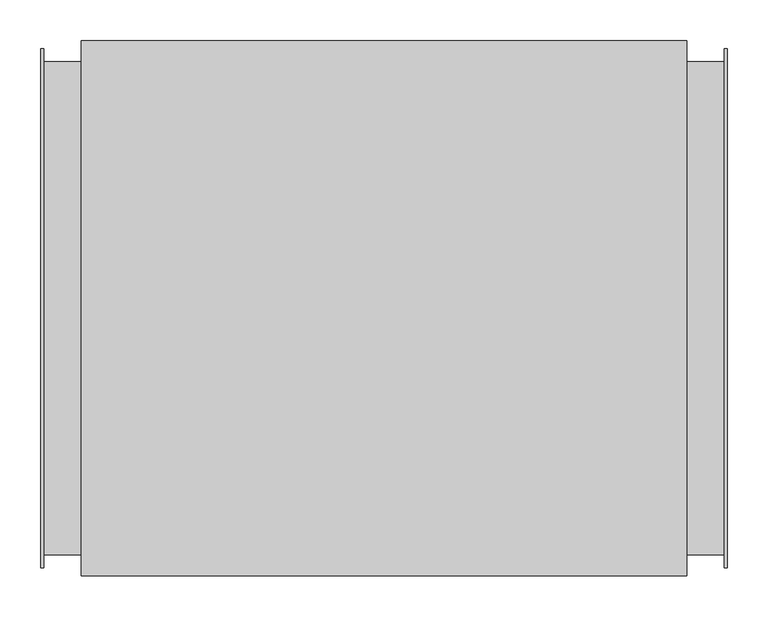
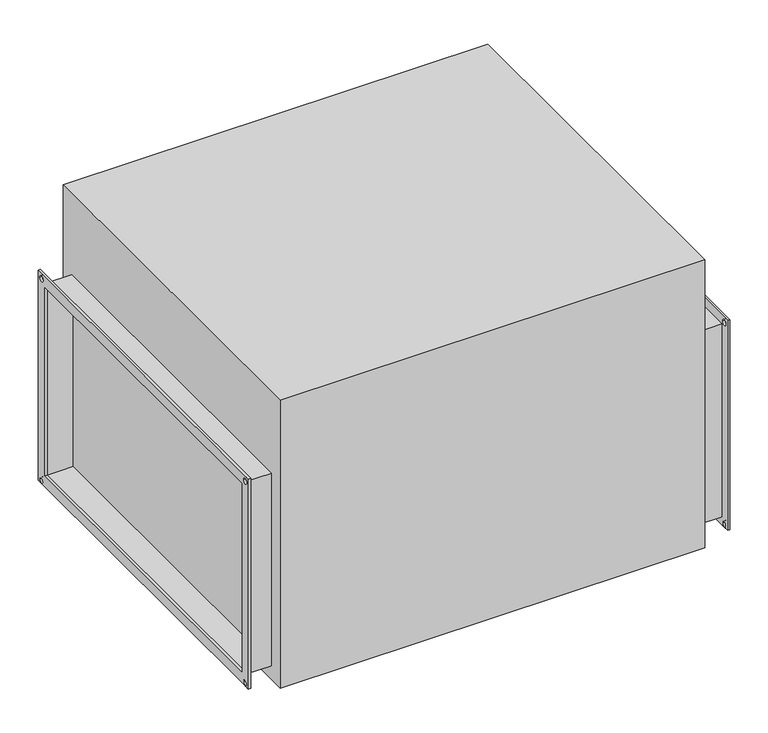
"""IFC4 building model written with IfcOpenShell, lengths in millimetres: proxy geometry."""

from ifc_helpers import new_model, si_unit, frame, origin, place, context, project, spatial, polyline, circle_curve, outline, extrude, source, transform, mapped, element, save
from ifc_brep_helpers import plane_surface, revolved_surface, advanced_brep


def mechanical_equipment_291a1020(model_context):
    return source(origin(), model_context, "Body", "SolidModel", [
        advanced_brep(
        [(419.0, 320.0, 195.0), (419.0, 320.0, -195.0), (419.0, 310.0, -195.0), (419.0, 315.0, -190.0), (419.0, 305.0, -190.0), (419.0, -310.0, -195.0), (419.0, -305.0, -190.0), (419.0, -315.0, -190.0), (419.0, -320.0, -195.0), (419.0, -320.0, 195.0), (419.0, 300.0, 175.0), (419.0, -300.0, 175.0), (419.0, -300.0, -175.0), (419.0, 300.0, -175.0), (419.0, 305.0, 185.0), (419.0, 315.0, 185.0), (419.0, -315.0, 185.0), (419.0, -305.0, 185.0), (423.0, 320.0, 195.0), (423.0, -320.0, 195.0), (423.0, -320.0, -195.0), (423.0, -310.0, -195.0), (423.0, -315.0, -190.0), (423.0, -305.0, -190.0), (423.0, 310.0, -195.0), (423.0, 305.0, -190.0), (423.0, 315.0, -190.0), (423.0, 320.0, -195.0), (423.0, 300.0, 175.0), (423.0, 300.0, -175.0), (423.0, -300.0, -175.0), (423.0, -300.0, 175.0), (423.0, 315.0, 185.0), (423.0, 305.0, 185.0), (423.0, -305.0, 185.0), (423.0, -315.0, 185.0)],
        [
            (0, 1),
            (1, 2),
            (2, 3, circle_curve(frame((419.0, 310.0, -190.0), z_axis=(1.0, 0.0, 0.0), x_axis=(0.0, 1.0, 0.0)), 5.0)),
            (3, 4, circle_curve(frame((419.0, 310.0, -190.0), z_axis=(1.0, 0.0, 0.0), x_axis=(0.0, 1.0, 0.0)), 5.0)),
            (4, 2, circle_curve(frame((419.0, 310.0, -190.0), z_axis=(1.0, 0.0, 0.0), x_axis=(0.0, 1.0, 0.0)), 5.0)),
            (2, 5),
            (5, 6, circle_curve(frame((419.0, -310.0, -190.0), z_axis=(1.0, 0.0, 0.0), x_axis=(0.0, 1.0, 0.0)), 5.0)),
            (6, 7, circle_curve(frame((419.0, -310.0, -190.0), z_axis=(1.0, 0.0, 0.0), x_axis=(0.0, 1.0, 0.0)), 5.0)),
            (7, 5, circle_curve(frame((419.0, -310.0, -190.0), z_axis=(1.0, 0.0, 0.0), x_axis=(0.0, 1.0, 0.0)), 5.0)),
            (5, 8),
            (8, 9),
            (9, 0),
            (10, 11),
            (11, 12),
            (12, 13),
            (13, 10),
            (14, 15, circle_curve(frame((419.0, 310.0, 185.0), z_axis=(1.0, 0.0, 0.0), x_axis=(0.0, 1.0, 0.0)), 5.0)),
            (15, 14, circle_curve(frame((419.0, 310.0, 185.0), z_axis=(1.0, 0.0, 0.0), x_axis=(0.0, 1.0, 0.0)), 5.0)),
            (16, 17, circle_curve(frame((419.0, -310.0, 185.0), z_axis=(1.0, 0.0, 0.0), x_axis=(0.0, 1.0, 0.0)), 5.0)),
            (17, 16, circle_curve(frame((419.0, -310.0, 185.0), z_axis=(1.0, 0.0, 0.0), x_axis=(0.0, 1.0, 0.0)), 5.0)),
            (18, 19),
            (19, 20),
            (20, 21),
            (21, 22, circle_curve(frame((423.0, -310.0, -190.0), z_axis=(-1.0, 0.0, 0.0), x_axis=(0.0, 1.0, 0.0)), 5.0)),
            (22, 23, circle_curve(frame((423.0, -310.0, -190.0), z_axis=(-1.0, 0.0, 0.0), x_axis=(0.0, 1.0, 0.0)), 5.0)),
            (23, 21, circle_curve(frame((423.0, -310.0, -190.0), z_axis=(-1.0, 0.0, 0.0), x_axis=(0.0, 1.0, 0.0)), 5.0)),
            (21, 24),
            (24, 25, circle_curve(frame((423.0, 310.0, -190.0), z_axis=(-1.0, 0.0, 0.0), x_axis=(0.0, 1.0, 0.0)), 5.0)),
            (25, 26, circle_curve(frame((423.0, 310.0, -190.0), z_axis=(-1.0, 0.0, 0.0), x_axis=(0.0, 1.0, 0.0)), 5.0)),
            (26, 24, circle_curve(frame((423.0, 310.0, -190.0), z_axis=(-1.0, 0.0, 0.0), x_axis=(0.0, 1.0, 0.0)), 5.0)),
            (24, 27),
            (27, 18),
            (28, 29),
            (29, 30),
            (30, 31),
            (31, 28),
            (32, 33, circle_curve(frame((423.0, 310.0, 185.0), z_axis=(-1.0, 0.0, 0.0), x_axis=(0.0, 1.0, 0.0)), 5.0)),
            (33, 32, circle_curve(frame((423.0, 310.0, 185.0), z_axis=(-1.0, 0.0, 0.0), x_axis=(0.0, 1.0, 0.0)), 5.0)),
            (34, 35, circle_curve(frame((423.0, -310.0, 185.0), z_axis=(-1.0, 0.0, 0.0), x_axis=(0.0, 1.0, 0.0)), 5.0)),
            (35, 34, circle_curve(frame((423.0, -310.0, 185.0), z_axis=(-1.0, 0.0, 0.0), x_axis=(0.0, 1.0, 0.0)), 5.0)),
            (13, 29),
            (28, 10),
            (12, 30),
            (11, 31),
            (9, 19),
            (18, 0),
            (8, 20),
            (1, 27),
            (14, 33),
            (32, 15),
            (16, 35),
            (34, 17),
            (7, 22),
            (23, 6),
            (4, 25),
            (26, 3),
        ],
        [
            plane_surface(frame((419.0, 300.0, -175.0), z_axis=(-1.0, 0.0, 0.0), x_axis=(0.0, 0.0, 1.0))),
            plane_surface(frame((423.0, 300.0, -175.0), z_axis=(1.0, 0.0, 0.0), x_axis=(0.0, 0.0, -1.0))),
            plane_surface(frame((423.0, 300.0, 175.0), z_axis=(0.0, -1.0, 0.0), x_axis=(-1.0, 0.0, 0.0))),
            plane_surface(frame((423.0, 300.0, -175.0), z_axis=(0.0, 0.0, 1.0), x_axis=(-1.0, 0.0, 0.0))),
            plane_surface(frame((423.0, -300.0, -175.0), z_axis=(0.0, 1.0, 0.0), x_axis=(-1.0, 0.0, 0.0))),
            plane_surface(frame((423.0, -300.0, 175.0), z_axis=(0.0, 0.0, -1.0), x_axis=(-1.0, 0.0, 0.0))),
            plane_surface(frame((423.0, 320.0, 195.0), z_axis=(0.0, 0.0, 1.0), x_axis=(-1.0, 0.0, 0.0))),
            plane_surface(frame((423.0, -320.0, 195.0), z_axis=(0.0, -1.0, 0.0), x_axis=(-1.0, 0.0, 0.0))),
            plane_surface(frame((423.0, -320.0, -195.0), z_axis=(0.0, 0.0, -1.0), x_axis=(-1.0, 0.0, 0.0))),
            plane_surface(frame((423.0, 320.0, -195.0), z_axis=(0.0, 1.0, 0.0), x_axis=(-1.0, 0.0, 0.0))),
            revolved_surface(polyline([(423.0, 315.0, 185.0), (419.0, 315.0, 185.0)]), (-423.0, 310.0, 185.0), (1.0, 0.0, 0.0)),
            revolved_surface(polyline([(423.0, -305.0, 185.0), (419.0, -305.0, 185.0)]), (0.0, -310.0, 185.0), (1.0, 0.0, 0.0)),
            revolved_surface(polyline([(423.0, -305.0, -190.0), (419.0, -305.0, -190.0)]), (0.0, -310.0, -190.0), (1.0, 0.0, 0.0)),
            revolved_surface(polyline([(423.0, 315.0, -190.0), (419.0, 315.0, -190.0)]), (0.0, 310.0, -190.0), (1.0, 0.0, 0.0)),
        ],
        [
            (0, [[1, 2, 3, 4, 5, 6, 7, 8, 9, 10, 11, 12], [13, 14, 15, 16], [17, 18], [19, 20]]),
            (1, [[21, 22, 23, 24, 25, 26, 27, 28, 29, 30, 31, 32], [33, 34, 35, 36], [37, 38], [39, 40]]),
            (2, [[-16, 41, -33, 42]]),
            (3, [[-15, 43, -34, -41]]),
            (4, [[-14, 44, -35, -43]]),
            (5, [[-13, -42, -36, -44]]),
            (6, [[-12, 45, -21, 46]]),
            (7, [[-11, 47, -22, -45]]),
            (8, [[-47, -10, -6, -2, 48, -31, -27, -23]]),
            (9, [[-1, -46, -32, -48]]),
            (10, [[49, -37, 50, -17]]),
            (10, [[-49, -18, -50, -38]]),
            (11, [[51, -39, 52, -19]]),
            (11, [[-51, -20, -52, -40]]),
            (12, [[53, -24, -26, 54, -7, -9]]),
            (12, [[-53, -8, -54, -25]]),
            (13, [[55, -28, -30, 56, -3, -5]]),
            (13, [[-55, -4, -56, -29]]),
        ],
    ),
        advanced_brep(
        [(-423.0, -320.0, 195.0), (-423.0, 320.0, 195.0), (-423.0, 320.0, -195.0), (-423.0, 310.0, -195.0), (-423.0, 315.0, -190.0), (-423.0, 305.0, -190.0), (-423.0, -310.0, -195.0), (-423.0, -305.0, -190.0), (-423.0, -315.0, -190.0), (-423.0, -320.0, -195.0), (-423.0, -300.0, 175.0), (-423.0, -300.0, -175.0), (-423.0, 300.0, -175.0), (-423.0, 300.0, 175.0), (-423.0, 305.0, 185.0), (-423.0, 315.0, 185.0), (-423.0, -315.0, 185.0), (-423.0, -305.0, 185.0), (-419.0, -320.0, 195.0), (-419.0, -320.0, -195.0), (-419.0, -310.0, -195.0), (-419.0, -315.0, -190.0), (-419.0, -305.0, -190.0), (-419.0, 310.0, -195.0), (-419.0, 305.0, -190.0), (-419.0, 315.0, -190.0), (-419.0, 320.0, -195.0), (-419.0, 320.0, 195.0), (-419.0, -300.0, 175.0), (-419.0, 300.0, 175.0), (-419.0, 300.0, -175.0), (-419.0, -300.0, -175.0), (-419.0, 315.0, 185.0), (-419.0, 305.0, 185.0), (-419.0, -305.0, 185.0), (-419.0, -315.0, 185.0)],
        [
            (0, 1),
            (1, 2),
            (2, 3),
            (3, 4, circle_curve(frame((-423.0, 310.0, -190.0), z_axis=(1.0, 0.0, 0.0), x_axis=(0.0, 1.0, 0.0)), 5.0)),
            (4, 5, circle_curve(frame((-423.0, 310.0, -190.0), z_axis=(1.0, 0.0, 0.0), x_axis=(0.0, 1.0, 0.0)), 5.0)),
            (5, 3, circle_curve(frame((-423.0, 310.0, -190.0), z_axis=(1.0, 0.0, 0.0), x_axis=(0.0, 1.0, 0.0)), 5.0)),
            (3, 6),
            (6, 7, circle_curve(frame((-423.0, -310.0, -190.0), z_axis=(1.0, 0.0, 0.0), x_axis=(0.0, 1.0, 0.0)), 5.0)),
            (7, 8, circle_curve(frame((-423.0, -310.0, -190.0), z_axis=(1.0, 0.0, 0.0), x_axis=(0.0, 1.0, 0.0)), 5.0)),
            (8, 6, circle_curve(frame((-423.0, -310.0, -190.0), z_axis=(1.0, 0.0, 0.0), x_axis=(0.0, 1.0, 0.0)), 5.0)),
            (6, 9),
            (9, 0),
            (10, 11),
            (11, 12),
            (12, 13),
            (13, 10),
            (14, 15, circle_curve(frame((-423.0, 310.0, 185.0), z_axis=(1.0, 0.0, 0.0), x_axis=(0.0, 1.0, 0.0)), 5.0)),
            (15, 14, circle_curve(frame((-423.0, 310.0, 185.0), z_axis=(1.0, 0.0, 0.0), x_axis=(0.0, 1.0, 0.0)), 5.0)),
            (16, 17, circle_curve(frame((-423.0, -310.0, 185.0), z_axis=(1.0, 0.0, 0.0), x_axis=(0.0, 1.0, 0.0)), 5.0)),
            (17, 16, circle_curve(frame((-423.0, -310.0, 185.0), z_axis=(1.0, 0.0, 0.0), x_axis=(0.0, 1.0, 0.0)), 5.0)),
            (18, 19),
            (19, 20),
            (20, 21, circle_curve(frame((-419.0, -310.0, -190.0), z_axis=(-1.0, 0.0, 0.0), x_axis=(0.0, 1.0, 0.0)), 5.0)),
            (21, 22, circle_curve(frame((-419.0, -310.0, -190.0), z_axis=(-1.0, 0.0, 0.0), x_axis=(0.0, 1.0, 0.0)), 5.0)),
            (22, 20, circle_curve(frame((-419.0, -310.0, -190.0), z_axis=(-1.0, 0.0, 0.0), x_axis=(0.0, 1.0, 0.0)), 5.0)),
            (20, 23),
            (23, 24, circle_curve(frame((-419.0, 310.0, -190.0), z_axis=(-1.0, 0.0, 0.0), x_axis=(0.0, 1.0, 0.0)), 5.0)),
            (24, 25, circle_curve(frame((-419.0, 310.0, -190.0), z_axis=(-1.0, 0.0, 0.0), x_axis=(0.0, 1.0, 0.0)), 5.0)),
            (25, 23, circle_curve(frame((-419.0, 310.0, -190.0), z_axis=(-1.0, 0.0, 0.0), x_axis=(0.0, 1.0, 0.0)), 5.0)),
            (23, 26),
            (26, 27),
            (27, 18),
            (28, 29),
            (29, 30),
            (30, 31),
            (31, 28),
            (32, 33, circle_curve(frame((-419.0, 310.0, 185.0), z_axis=(-1.0, 0.0, 0.0), x_axis=(0.0, 1.0, 0.0)), 5.0)),
            (33, 32, circle_curve(frame((-419.0, 310.0, 185.0), z_axis=(-1.0, 0.0, 0.0), x_axis=(0.0, 1.0, 0.0)), 5.0)),
            (34, 35, circle_curve(frame((-419.0, -310.0, 185.0), z_axis=(-1.0, 0.0, 0.0), x_axis=(0.0, 1.0, 0.0)), 5.0)),
            (35, 34, circle_curve(frame((-419.0, -310.0, 185.0), z_axis=(-1.0, 0.0, 0.0), x_axis=(0.0, 1.0, 0.0)), 5.0)),
            (9, 19),
            (18, 0),
            (2, 26),
            (1, 27),
            (13, 29),
            (28, 10),
            (12, 30),
            (11, 31),
            (14, 33),
            (32, 15),
            (16, 35),
            (34, 17),
            (8, 21),
            (22, 7),
            (5, 24),
            (25, 4),
        ],
        [
            plane_surface(frame((-423.0, -320.0, 195.0), z_axis=(-1.0, 0.0, 0.0), x_axis=(0.0, 0.0, 1.0))),
            plane_surface(frame((-419.0, -320.0, 195.0), z_axis=(1.0, 0.0, 0.0), x_axis=(0.0, 0.0, -1.0))),
            plane_surface(frame((-419.0, -320.0, 195.0), z_axis=(0.0, -1.0, 0.0), x_axis=(-1.0, 0.0, 0.0))),
            plane_surface(frame((-419.0, -320.0, -195.0), z_axis=(0.0, 0.0, -1.0), x_axis=(-1.0, 0.0, 0.0))),
            plane_surface(frame((-419.0, 320.0, -195.0), z_axis=(0.0, 1.0, 0.0), x_axis=(-1.0, 0.0, 0.0))),
            plane_surface(frame((-419.0, 320.0, 195.0), z_axis=(0.0, 0.0, 1.0), x_axis=(-1.0, 0.0, 0.0))),
            plane_surface(frame((-419.0, -300.0, 175.0), z_axis=(0.0, 0.0, -1.0), x_axis=(-1.0, 0.0, 0.0))),
            plane_surface(frame((-419.0, 300.0, 175.0), z_axis=(0.0, -1.0, 0.0), x_axis=(-1.0, 0.0, 0.0))),
            plane_surface(frame((-419.0, 300.0, -175.0), z_axis=(0.0, 0.0, 1.0), x_axis=(-1.0, 0.0, 0.0))),
            plane_surface(frame((-419.0, -300.0, -175.0), z_axis=(0.0, 1.0, 0.0), x_axis=(-1.0, 0.0, 0.0))),
            revolved_surface(polyline([(-419.0, 315.0, 185.0), (-423.0, 315.0, 185.0)]), (-423.0, 310.0, 185.0), (1.0, 0.0, 0.0)),
            revolved_surface(polyline([(-419.0, -305.0, 185.0), (-423.0, -305.0, 185.0)]), (0.0, -310.0, 185.0), (1.0, 0.0, 0.0)),
            revolved_surface(polyline([(-419.0, -305.0, -190.0), (-423.0, -305.0, -190.0)]), (0.0, -310.0, -190.0), (1.0, 0.0, 0.0)),
            revolved_surface(polyline([(-419.0, 315.0, -190.0), (-423.0, 315.0, -190.0)]), (0.0, 310.0, -190.0), (1.0, 0.0, 0.0)),
        ],
        [
            (0, [[1, 2, 3, 4, 5, 6, 7, 8, 9, 10, 11, 12], [13, 14, 15, 16], [17, 18], [19, 20]]),
            (1, [[21, 22, 23, 24, 25, 26, 27, 28, 29, 30, 31, 32], [33, 34, 35, 36], [37, 38], [39, 40]]),
            (2, [[-12, 41, -21, 42]]),
            (3, [[-41, -11, -7, -3, 43, -30, -26, -22]]),
            (4, [[-2, 44, -31, -43]]),
            (5, [[-1, -42, -32, -44]]),
            (6, [[-16, 45, -33, 46]]),
            (7, [[-15, 47, -34, -45]]),
            (8, [[-14, 48, -35, -47]]),
            (9, [[-13, -46, -36, -48]]),
            (10, [[49, -37, 50, -17]]),
            (10, [[-49, -18, -50, -38]]),
            (11, [[51, -39, 52, -19]]),
            (11, [[-51, -20, -52, -40]]),
            (12, [[53, -23, -25, 54, -8, -10]]),
            (12, [[-53, -9, -54, -24]]),
            (13, [[55, -27, -29, 56, -4, -6]]),
            (13, [[-55, -5, -56, -28]]),
        ],
    ),
        extrude(outline(polyline([(373.0, 330.0), (373.0, -330.0), (-373.0, -330.0), (-373.0, 330.0), (373.0, 330.0)])), frame((0.0, 0.0, -205.0), z_axis=(0.0, 0.0, 1.0), x_axis=(1.0, 0.0, 0.0)), (0.0, 0.0, 1.0), 535.0),
        extrude(outline(polyline([(-304.0, 179.0), (304.0, 179.0), (304.0, -179.0), (-304.0, -179.0), (-304.0, 179.0)]), holes=[polyline([(300.0, 175.0), (-300.0, 175.0), (-300.0, -175.0), (300.0, -175.0), (300.0, 175.0)])]), frame((-419.0, 0.0, 0.0), z_axis=(1.0, 0.0, 0.0), x_axis=(0.0, 1.0, 0.0)), (0.0, 0.0, 1.0), 46.0),
        extrude(outline(polyline([(-304.0, 179.0), (304.0, 179.0), (304.0, -179.0), (-304.0, -179.0), (-304.0, 179.0)]), holes=[polyline([(300.0, 175.0), (-300.0, 175.0), (-300.0, -175.0), (300.0, -175.0), (300.0, 175.0)])]), frame((373.0, 0.0, 0.0), z_axis=(1.0, 0.0, 0.0), x_axis=(0.0, 1.0, 0.0)), (0.0, 0.0, 1.0), 46.0),
    ])


if __name__ == "__main__":
    model = new_model("IFC4")
    model_context = context("Model", 3, world=origin())
    ifc_project = project(units=[si_unit("LENGTHUNIT", "METRE", prefix="MILLI")], contexts=[model_context])
    site = spatial("IfcSite", under=ifc_project)
    building = spatial("IfcBuilding", under=site)
    placement = place(None, origin())
    mechanical_equipment_shape = mechanical_equipment_291a1020(model_context)
    element("IfcBuildingElementProxy", 1, Name="Mechanical Equipment", at=placement, inside=building, context=model_context, shape_type="MappedRepresentation", body=[
        mapped(mechanical_equipment_shape, transform((0.0, 0.0, 0.0), x_axis=(1.0, 0.0, 0.0), y_axis=(0.0, 1.0, 0.0), z_axis=(0.0, 0.0, 1.0))),
    ])
    save(model, "model.ifc")
